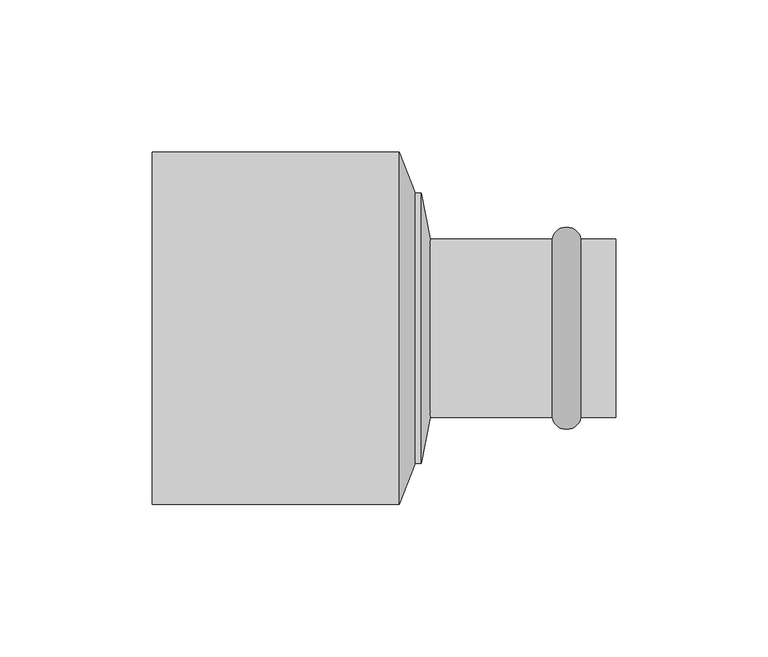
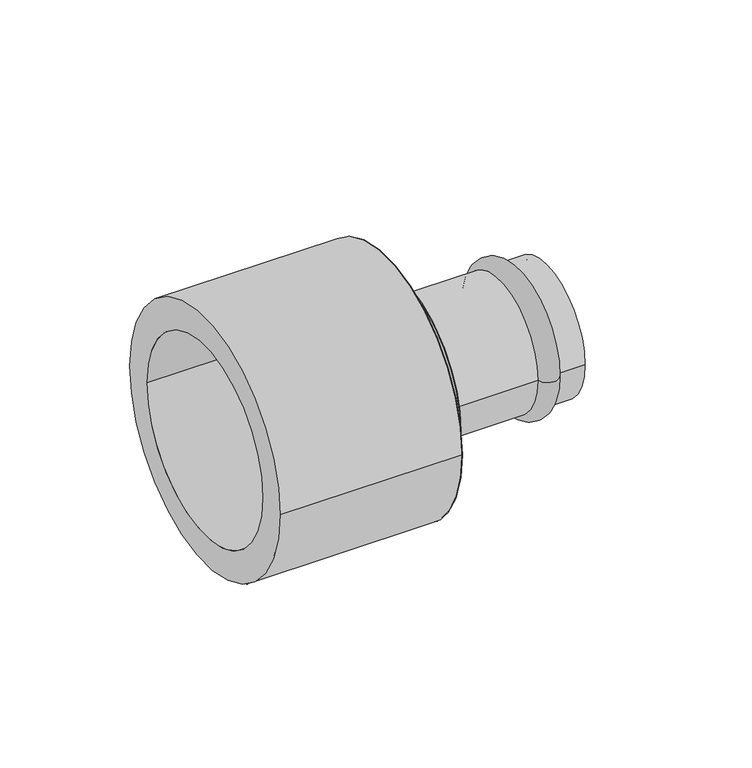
"""IFC4 building model written with IfcOpenShell, lengths in millimetres: pipe fitting geometry, VALTEC_VTi.905.I_Вставка переходная_Нержавеющая сталь : VTi.905.I."""

from ifc_helpers import new_model, si_unit, point, frame, origin, origin_2d, place, context, project, spatial, polyline, circle_curve, ellipse_curve, trimmed, segment, composite_curve, outline, extrude, source, transform, mapped, element, save
from ifc_brep_helpers import plane_surface, cylinder_surface, revolved_surface, advanced_brep


def pipe_fitting_ce003068(model_context):
    return source(origin(), model_context, "Body", "SolidModel", [
        advanced_brep(
        [(64.6148701, -29.3, 0.0), (55.1851299, -29.3, 0.0), (55.1851299, 29.3, 0.0), (64.6148701, 29.3, 0.0), (76.0, -29.3, 0.0), (76.0, 29.3, 0.0), (76.0, -27.0, 0.0), (76.0, 27.0, 0.0), (15.2, -27.0, 0.0), (15.2, 27.0, 0.0), (15.2, -29.3, 0.0), (15.2, 29.3, 0.0)],
        [
            (0, 1, circle_curve(frame((59.9, -28.4, 0.0), z_axis=(0.0, 0.0, -1.0), x_axis=(-1.0, 0.0, 0.0)), 4.8)),
            (1, 2, circle_curve(frame((55.1851299, 0.0, 0.0), z_axis=(1.0, 0.0, 0.0), x_axis=(0.0, 1.0, 0.0)), 29.3)),
            (2, 3, circle_curve(frame((59.9, 28.4, 0.0), z_axis=(0.0, 0.0, -1.0), x_axis=(-1.0, 0.0, 0.0)), 4.8)),
            (3, 0, circle_curve(frame((64.6148701, 0.0, 0.0), z_axis=(-1.0, 0.0, 0.0), x_axis=(0.0, 1.0, 0.0)), 29.3)),
            (2, 1, circle_curve(frame((55.1851299, 0.0, 0.0), z_axis=(1.0, 0.0, 0.0), x_axis=(0.0, 1.0, 0.0)), 29.3)),
            (0, 3, circle_curve(frame((64.6148701, 0.0, 0.0), z_axis=(-1.0, 0.0, 0.0), x_axis=(0.0, 1.0, 0.0)), 29.3)),
            (4, 0),
            (3, 5),
            (5, 4, circle_curve(frame((76.0, 0.0, 0.0), z_axis=(-1.0, 0.0, 0.0), x_axis=(0.0, 1.0, 0.0)), 29.3)),
            (4, 5, circle_curve(frame((76.0, 0.0, 0.0), z_axis=(-1.0, 0.0, 0.0), x_axis=(0.0, 1.0, 0.0)), 29.3)),
            (6, 4),
            (5, 7),
            (7, 6, circle_curve(frame((76.0, 0.0, 0.0), z_axis=(-1.0, 0.0, 0.0), x_axis=(0.0, 1.0, 0.0)), 27.0)),
            (6, 7, circle_curve(frame((76.0, 0.0, 0.0), z_axis=(-1.0, 0.0, 0.0), x_axis=(0.0, 1.0, 0.0)), 27.0)),
            (8, 6),
            (7, 9),
            (9, 8, circle_curve(frame((15.2, 0.0, 0.0), z_axis=(-1.0, 0.0, 0.0), x_axis=(0.0, 1.0, 0.0)), 27.0)),
            (8, 9, circle_curve(frame((15.2, 0.0, 0.0), z_axis=(-1.0, 0.0, 0.0), x_axis=(0.0, 1.0, 0.0)), 27.0)),
            (10, 8),
            (9, 11),
            (11, 10, circle_curve(frame((15.2, 0.0, 0.0), z_axis=(-1.0, 0.0, 0.0), x_axis=(0.0, 1.0, 0.0)), 29.3)),
            (10, 11, circle_curve(frame((15.2, 0.0, 0.0), z_axis=(-1.0, 0.0, 0.0), x_axis=(0.0, 1.0, 0.0)), 29.3)),
            (1, 10),
            (11, 2),
        ],
        [
            revolved_surface(trimmed(ellipse_curve(frame((59.9, 28.4, 0.0), z_axis=(0.0, 0.0, -1.0), x_axis=(-1.0, 0.0, 0.0)), 4.8, 4.8), [point((55.1851299, 29.3, 0.0))], [point((64.6148701, 29.3, 0.0))], True, "CARTESIAN"), (79.5364426, 0.0, 0.0), (1.0, 0.0, 0.0)),
            cylinder_surface(frame((79.5364426, 0.0, 0.0), z_axis=(1.0, 0.0, 0.0), x_axis=(0.0, 1.0, 0.0)), 29.3),
            plane_surface(frame((76.0, 0.0, 0.0), z_axis=(1.0, 0.0, 0.0), x_axis=(0.0, 1.0, 0.0))),
            revolved_surface(polyline([(76.0, 27.0, 0.0), (15.200000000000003, 27.0, 0.0)]), (79.5364426, 0.0, 0.0), (1.0, 0.0, 0.0)),
            plane_surface(frame((15.2, 0.0, 0.0), z_axis=(-1.0, 0.0, 0.0), x_axis=(0.0, 1.0, 0.0))),
        ],
        [
            (0, [[1, 2, 3, 4]]),
            (0, [[-3, 5, -1, 6]]),
            (1, [[7, -4, 8, 9]]),
            (1, [[-8, -6, -7, 10]]),
            (2, [[11, -9, 12, 13]]),
            (2, [[-12, -10, -11, 14]]),
            (3, [[15, -13, 16, 17]]),
            (3, [[-16, -14, -15, 18]]),
            (4, [[19, -17, 20, 21]]),
            (4, [[-20, -18, -19, 22]]),
            (1, [[23, -21, 24, -2]]),
            (1, [[-24, -22, -23, -5]]),
        ],
    ),
        advanced_brep(
        [(12.2, -44.45, 0.0), (12.2, 44.45, 0.0), (15.2, -29.3, 0.0), (15.2, 29.3, 0.0)],
        [
            (0, 1, circle_curve(frame((12.2, 0.0, 0.0), z_axis=(-1.0, 0.0, 0.0), x_axis=(0.0, -1.0, 0.0)), 44.45)),
            (1, 0, circle_curve(frame((12.2, 0.0, 0.0), z_axis=(-1.0, 0.0, 0.0), x_axis=(0.0, 1.0, 0.0)), 44.45)),
            (2, 3, circle_curve(frame((15.2, 0.0, 0.0), z_axis=(1.0, 0.0, 0.0), x_axis=(0.0, 1.0, 0.0)), 29.3)),
            (3, 2, circle_curve(frame((15.2, 0.0, 0.0), z_axis=(1.0, 0.0, 0.0), x_axis=(0.0, -1.0, 0.0)), 29.3)),
            (2, 0),
            (1, 3),
        ],
        [
            plane_surface(frame((12.2, 0.0, 0.0), z_axis=(-1.0, 0.0, 0.0), x_axis=(0.0, 0.0, 1.0))),
            plane_surface(frame((15.2, 0.0, 0.0), z_axis=(1.0, 0.0, 0.0), x_axis=(0.0, 0.0, 1.0))),
            revolved_surface(polyline([(15.2, -29.300000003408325, 0.0), (12.2, -44.45, 0.0)]), (21.0019802, 0.0, 0.0), (-1.0, 0.0, 0.0)),
            revolved_surface(polyline([(15.2, 29.300000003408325, 0.0), (12.2, 44.45, 0.0)]), (21.0019802, 0.0, 0.0), (-1.0, 0.0, 0.0)),
        ],
        [
            (0, [[1, 2]]),
            (1, [[3, 4]]),
            (2, [[-3, 5, -2, 6]]),
            (3, [[-4, -6, -1, -5]]),
        ],
    ),
        extrude(outline(composite_curve([segment(trimmed(circle_curve(origin_2d(), 44.45), [point((-44.45, 0.0))], [point((44.45, 0.0))], False, "CARTESIAN"), True, "CONTINUOUS"), segment(trimmed(circle_curve(origin_2d(), 44.45), [point((44.45, 0.0))], [point((-44.45, 0.0))], False, "CARTESIAN"), True, "CONTINUOUS")], self_intersect=False)), frame((10.2, 0.0, 0.0), z_axis=(1.0, 0.0, 0.0), x_axis=(0.0, 1.0, 0.0)), (0.0, 0.0, 1.0), 2.0),
        advanced_brep(
        [(10.2, -44.45, 0.0), (10.2, 44.45, 0.0), (5.0, -57.785, 0.0), (5.0, 57.785, 0.0)],
        [
            (0, 1, circle_curve(frame((10.2, 0.0, 0.0), z_axis=(1.0, 0.0, 0.0), x_axis=(0.0, -1.0, 0.0)), 44.45)),
            (1, 0, circle_curve(frame((10.2, 0.0, 0.0), z_axis=(1.0, 0.0, 0.0), x_axis=(0.0, 1.0, 0.0)), 44.45)),
            (2, 3, circle_curve(frame((5.0, 0.0, 0.0), z_axis=(-1.0, 0.0, 0.0), x_axis=(0.0, 1.0, 0.0)), 57.785)),
            (3, 2, circle_curve(frame((5.0, 0.0, 0.0), z_axis=(-1.0, 0.0, 0.0), x_axis=(0.0, -1.0, 0.0)), 57.785)),
            (3, 1),
            (0, 2),
        ],
        [
            plane_surface(frame((10.2, 0.0, 0.0), z_axis=(1.0, 0.0, 0.0), x_axis=(0.0, 0.0, -1.0))),
            plane_surface(frame((5.0, 0.0, 0.0), z_axis=(-1.0, 0.0, 0.0), x_axis=(0.0, 0.0, -1.0))),
            revolved_surface(polyline([(10.2, -44.44999998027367, 0.0), (5.0, -57.785, 0.0)]), (27.5333333, 0.0, 0.0), (-1.0, 0.0, 0.0)),
            revolved_surface(polyline([(10.2, 44.44999998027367, 0.0), (5.0, 57.785, 0.0)]), (27.5333333, 0.0, 0.0), (-1.0, 0.0, 0.0)),
        ],
        [
            (0, [[1, 2]]),
            (1, [[3, 4]]),
            (2, [[-4, 5, -1, 6]]),
            (3, [[-3, -6, -2, -5]]),
        ],
    ),
        extrude(outline(composite_curve([segment(trimmed(circle_curve(origin_2d(), 57.785), [point((-57.785, 0.0))], [point((57.785, 0.0))], False, "CARTESIAN"), True, "CONTINUOUS"), segment(trimmed(circle_curve(origin_2d(), 57.785), [point((57.785, 0.0))], [point((-57.785, 0.0))], False, "CARTESIAN"), True, "CONTINUOUS")], self_intersect=False), holes=[composite_curve([segment(trimmed(circle_curve(origin_2d(), 44.45), [point((-44.45, 0.0))], [point((44.45, 0.0))], True, "CARTESIAN"), True, "CONTINUOUS"), segment(trimmed(circle_curve(origin_2d(), 44.45), [point((44.45, 0.0))], [point((-44.45, 0.0))], True, "CARTESIAN"), True, "CONTINUOUS")], self_intersect=False)]), frame((-76.0, 0.0, 0.0), z_axis=(1.0, 0.0, 0.0), x_axis=(0.0, 1.0, 0.0)), (0.0, 0.0, 1.0), 81.0),
    ])


if __name__ == "__main__":
    model = new_model("IFC4")
    model_context = context("Model", 3, world=origin())
    ifc_project = project(units=[si_unit("LENGTHUNIT", "METRE", prefix="MILLI")], contexts=[model_context])
    site = spatial("IfcSite", under=ifc_project)
    building = spatial("IfcBuilding", under=site)
    placement = place(None, origin())
    pipe_fitting_shape = pipe_fitting_ce003068(model_context)
    element("IfcPipeFitting", 1, ObjectType="VALTEC_VTi.905.I_Вставка переходная_Нержавеющая сталь : VTi.905.I", at=placement, inside=building, context=model_context, shape_type="MappedRepresentation", body=[
        mapped(pipe_fitting_shape, transform((0.0, 0.0, 0.0), x_axis=(1.0, 0.0, 0.0), y_axis=(0.0, 1.0, 0.0), z_axis=(0.0, 0.0, 1.0))),
    ])
    save(model, "model.ifc")
